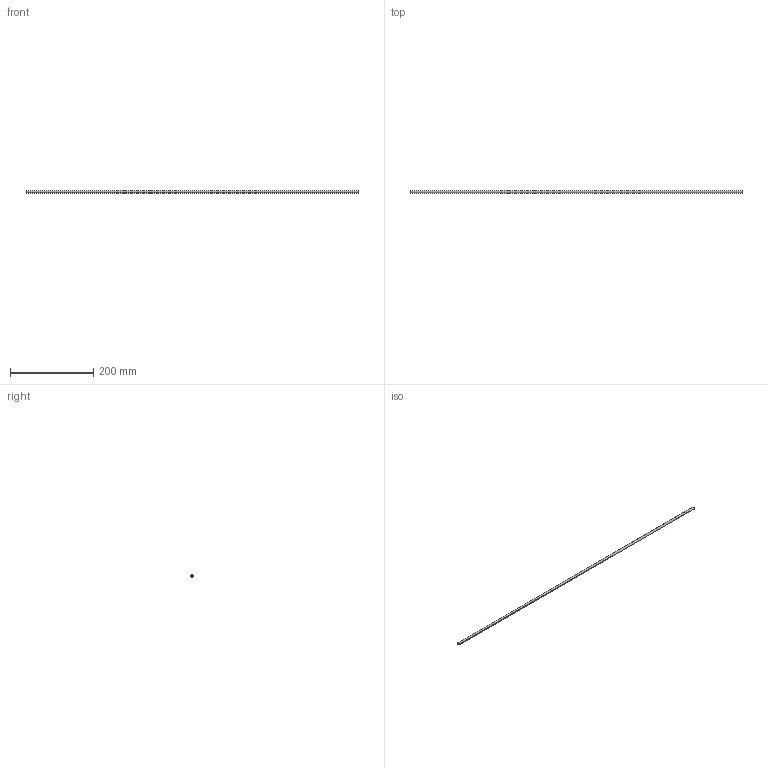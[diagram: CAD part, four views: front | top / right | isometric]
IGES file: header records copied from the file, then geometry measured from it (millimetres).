
Start section: START RECORD GO HERE.
Global section: file name: te063800.igs; native system: DASSAULT SYSTEMES CATIA V5 R20 - www.3ds.com; preprocessor: CATIA Version 5 Release 20 ; author: Utente; organization: NB04-ASUS; date: 20201107.142727; units: millimetre
Bounding box: 800 x 6 x 6 mm (x, y, z)
Surface area: 23145.7 mm2 (no closed solid volume)
Topology: 0 solids, 0 shells, 9 faces, 36 edges, 36 vertices
Faces by surface type: revolution 6, plane 3
